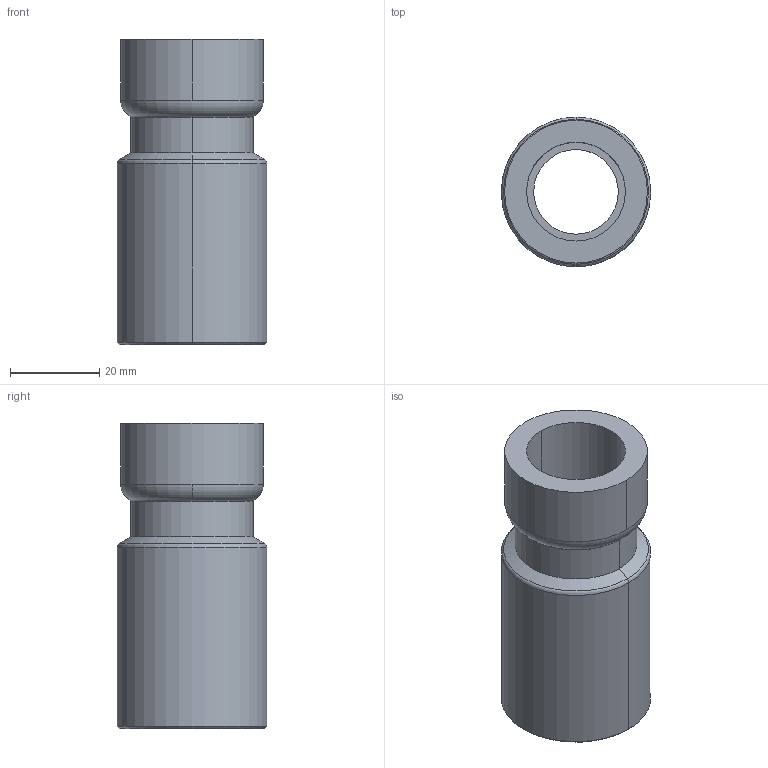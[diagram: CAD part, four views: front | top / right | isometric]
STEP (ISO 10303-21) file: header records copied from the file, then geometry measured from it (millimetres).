
FILE_DESCRIPTION(('Creo Elements/Direct Modeling STEP Export'),'2;1');
FILE_NAME('C9407_1-2_1.stp','2020-06-18T16:45:28',(''),(''),'PTC Creo Elements/Direct Modeling STEP processor for AP214 (Solid Model)','PTC Creo Elements/Direct Modeling 19.0C 15-Aug-2015 (C) Parametric Technology GmbH','');
FILE_SCHEMA(('AUTOMOTIVE_DESIGN { 1 0 10303 214 1 1 1 1 }'));
Length unit declared in the file: millimetre
Products named in the file (2): 9407_1-2_1
Assembly tree (1 placements, depth 2):
  9407_1-2_1
    9407_1-2_1
Bounding box: 33.55 x 33.55 x 68.52 mm (x, y, z)
Volume: 25585 mm3; surface area: 13297.1 mm2
Topology: 1 solids, 1 shells, 27 faces, 61 edges, 37 vertices
Faces by surface type: cylinder 12, torus 6, cone 6, plane 3
Entity records: 709 total; most frequent: ORIENTED_EDGE 122, DIRECTION 118, CARTESIAN_POINT 105, EDGE_CURVE 61, AXIS2_PLACEMENT_3D 50, VERTEX_POINT 37, EDGE_LOOP 30, FACE_OUTER_BOUND 27
